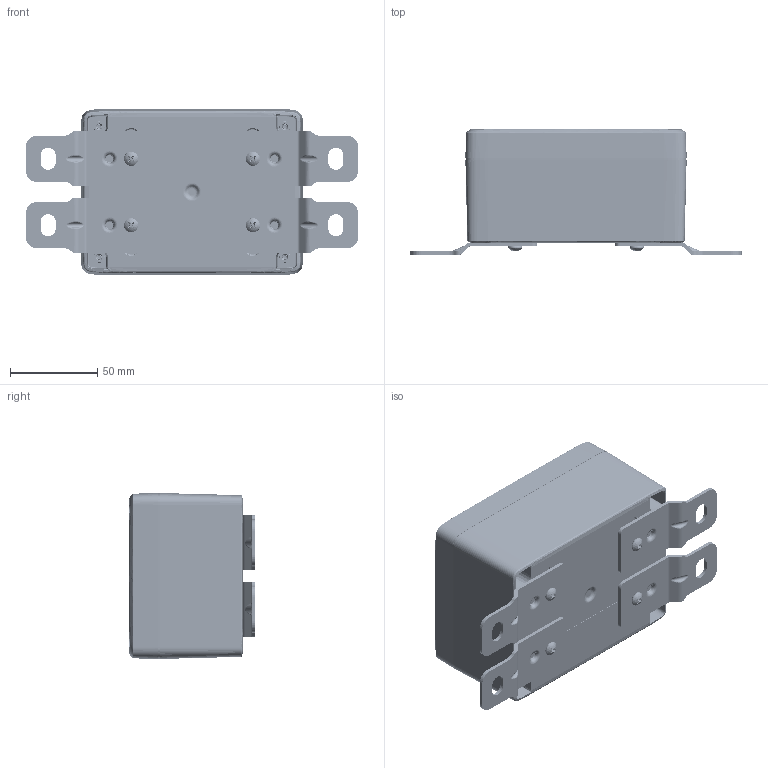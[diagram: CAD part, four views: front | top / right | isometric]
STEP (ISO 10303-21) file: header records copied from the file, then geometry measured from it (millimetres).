
FILE_DESCRIPTION (( 'STEP AP214' ), '1' );
FILE_NAME ('HN-45-24.STEP', '2026-02-23T17:56:59', ( '' ), ( '' ), 'SwSTEP 2.0', 'SolidWorks 2025', '' );
FILE_SCHEMA (( 'AUTOMOTIVE_DESIGN' ));
Length unit declared in the file: inch
Products named in the file (11): HN-45-24; HN-45C_HN-45C-02; HN-45B_HN-45BP-00; HN-45BN_HN-45BPN-00; INSERTS-3_INSERTS-3; LABEL-107; ZH-91F-01_ZH-91F-01; HN-45G_default; HN-45CG_HN-45CG-02; SCREWS-xxx_#8-16 PLASTITE, PAN, PHILLIPS_SCREWS-044; SCREWS-054_DEFAULT
Assembly tree (22 placements, depth 3):
  HN-45-24
    HN-45B_HN-45BP-00
      HN-45BN_HN-45BPN-00
      INSERTS-3_INSERTS-3  x4
      LABEL-107
    HN-45CG_HN-45CG-02
      HN-45C_HN-45C-02
      HN-45G_default
    SCREWS-054_DEFAULT  x4
    ZH-91F-01_ZH-91F-01  x4
    SCREWS-xxx_#8-16 PLASTITE, PAN, PHILLIPS_SCREWS-044  x4
Bounding box: 190.5 x 72.32 x 95.25 mm (x, y, z)
Volume: 205383.2 mm3; surface area: 149640 mm2
Topology: 19 solids, 21 shells, 4482 faces, 10876 edges, 6440 vertices
Faces by surface type: torus 996, cone 972, cylinder 887, bspline 836, plane 709, sphere 82
Entity records: 135779 total; most frequent: CARTESIAN_POINT 60588, ORIENTED_EDGE 16602, DIRECTION 14928, EDGE_CURVE 8304, AXIS2_PLACEMENT_3D 6518, VERTEX_POINT 4929, CIRCLE 3720, EDGE_LOOP 3562
